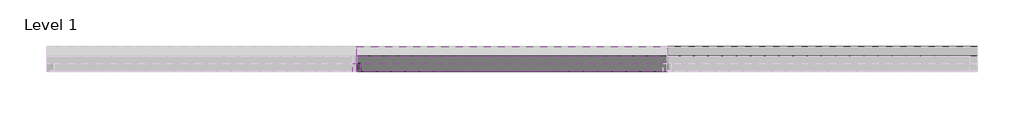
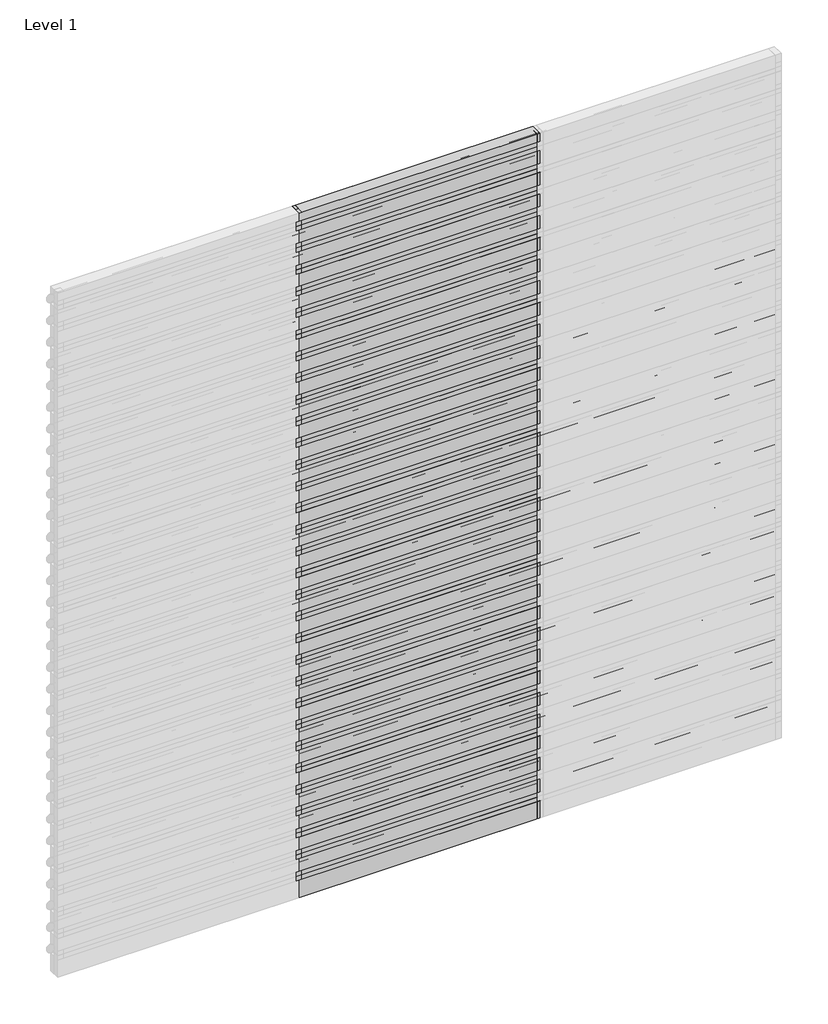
# One storey, part 2 of 3: 74 members, 64 plates.
"""IFC4 building model written with IfcOpenShell, lengths in millimetres."""

from ifc_helpers import new_model, si_unit, origin, place, context, project, spatial, transform, mapped, element, save
from components import rectangular_mullion_18d4e549, rectangular_mullion_3201b9fb, rectangular_mullion_5aa39df7, empty_system_panel_empty_c392bfdd, empty_system_panel_empty_c228c368, empty_system_panel_empty_0c4ce8c7, empty_system_panel_empty_fbe7752e, empty_system_panel_empty_6f6190f9

model = new_model("IFC4")

# Units and contexts
model_context = context("Model", 3, world=origin())
ifc_project = project(units=[si_unit("LENGTHUNIT", "METRE", prefix="MILLI")], contexts=[model_context])

# Site, building, storey
site = spatial("IfcSite", under=ifc_project)
building = spatial("IfcBuilding", under=site)
storey = spatial("IfcBuildingStorey", under=building, Name="Level 1", Elevation=0.0)

# Members
placement = place(None, origin())
rectangular_mullion_shape = rectangular_mullion_18d4e549(model_context)
element("IfcMember", 1, ObjectType="Rectangular Mullion : RSen_21_CWM_blade - 150 D_gen_duco projects", at=placement, inside=storey, context=model_context, shape_type="MappedRepresentation", body=[
    mapped(rectangular_mullion_shape, transform((4000.0, 3000.0, 190.0), x_axis=(0.0, 0.0, 1.0), y_axis=(0.0, 1.0, 0.0), z_axis=(-1.0, 0.0, 0.0))),
])
element("IfcMember", 2, ObjectType="Rectangular Mullion : RSen_21_CWM_blade - 150 D_gen_duco projects", at=placement, inside=storey, context=model_context, shape_type="MappedRepresentation", body=[
    mapped(rectangular_mullion_shape, transform((4000.0, 3000.0, 380.0), x_axis=(0.0, 0.0, 1.0), y_axis=(0.0, 1.0, 0.0), z_axis=(-1.0, 0.0, 0.0))),
])
element("IfcMember", 3, ObjectType="Rectangular Mullion : RSen_21_CWM_blade - 150 D_gen_duco projects", at=placement, inside=storey, context=model_context, shape_type="MappedRepresentation", body=[
    mapped(rectangular_mullion_shape, transform((4000.0, 3000.0, 570.0), x_axis=(0.0, 0.0, 1.0), y_axis=(0.0, 1.0, 0.0), z_axis=(-1.0, 0.0, 0.0))),
])
element("IfcMember", 4, ObjectType="Rectangular Mullion : RSen_21_CWM_blade - 150 D_gen_duco projects", at=placement, inside=storey, context=model_context, shape_type="MappedRepresentation", body=[
    mapped(rectangular_mullion_shape, transform((4000.0, 3000.0, 760.0), x_axis=(0.0, 0.0, 1.0), y_axis=(0.0, 1.0, 0.0), z_axis=(-1.0, 0.0, 0.0))),
])
element("IfcMember", 5, ObjectType="Rectangular Mullion : RSen_21_CWM_blade - 150 D_gen_duco projects", at=placement, inside=storey, context=model_context, shape_type="MappedRepresentation", body=[
    mapped(rectangular_mullion_shape, transform((4000.0, 3000.0, 950.0), x_axis=(0.0, 0.0, 1.0), y_axis=(0.0, 1.0, 0.0), z_axis=(-1.0, 0.0, 0.0))),
])
element("IfcMember", 6, ObjectType="Rectangular Mullion : RSen_21_CWM_blade - 150 D_gen_duco projects", at=placement, inside=storey, context=model_context, shape_type="MappedRepresentation", body=[
    mapped(rectangular_mullion_shape, transform((4000.0, 3000.0, 1140.0), x_axis=(0.0, 0.0, 1.0), y_axis=(0.0, 1.0, 0.0), z_axis=(-1.0, 0.0, 0.0))),
])
element("IfcMember", 7, ObjectType="Rectangular Mullion : RSen_21_CWM_blade - 150 D_gen_duco projects", at=placement, inside=storey, context=model_context, shape_type="MappedRepresentation", body=[
    mapped(rectangular_mullion_shape, transform((4000.0, 3000.0, 1330.0), x_axis=(0.0, 0.0, 1.0), y_axis=(0.0, 1.0, 0.0), z_axis=(-1.0, 0.0, 0.0))),
])
element("IfcMember", 8, ObjectType="Rectangular Mullion : RSen_21_CWM_blade - 150 D_gen_duco projects", at=placement, inside=storey, context=model_context, shape_type="MappedRepresentation", body=[
    mapped(rectangular_mullion_shape, transform((4000.0, 3000.0, 1520.0), x_axis=(0.0, 0.0, 1.0), y_axis=(0.0, 1.0, 0.0), z_axis=(-1.0, 0.0, 0.0))),
])
element("IfcMember", 9, ObjectType="Rectangular Mullion : RSen_21_CWM_blade - 150 D_gen_duco projects", at=placement, inside=storey, context=model_context, shape_type="MappedRepresentation", body=[
    mapped(rectangular_mullion_shape, transform((4000.0, 3000.0, 1710.0), x_axis=(0.0, 0.0, 1.0), y_axis=(0.0, 1.0, 0.0), z_axis=(-1.0, 0.0, 0.0))),
])
element("IfcMember", 10, ObjectType="Rectangular Mullion : RSen_21_CWM_blade - 150 D_gen_duco projects", at=placement, inside=storey, context=model_context, shape_type="MappedRepresentation", body=[
    mapped(rectangular_mullion_shape, transform((4000.0, 3000.0, 1900.0), x_axis=(0.0, 0.0, 1.0), y_axis=(0.0, 1.0, 0.0), z_axis=(-1.0, 0.0, 0.0))),
])
element("IfcMember", 11, ObjectType="Rectangular Mullion : RSen_21_CWM_blade - 150 D_gen_duco projects", at=placement, inside=storey, context=model_context, shape_type="MappedRepresentation", body=[
    mapped(rectangular_mullion_shape, transform((4000.0, 3000.0, 2090.0), x_axis=(0.0, 0.0, 1.0), y_axis=(0.0, 1.0, 0.0), z_axis=(-1.0, 0.0, 0.0))),
])
element("IfcMember", 12, ObjectType="Rectangular Mullion : RSen_21_CWM_blade - 150 D_gen_duco projects", at=placement, inside=storey, context=model_context, shape_type="MappedRepresentation", body=[
    mapped(rectangular_mullion_shape, transform((4000.0, 3000.0, 2280.0), x_axis=(0.0, 0.0, 1.0), y_axis=(0.0, 1.0, 0.0), z_axis=(-1.0, 0.0, 0.0))),
])
element("IfcMember", 13, ObjectType="Rectangular Mullion : RSen_21_CWM_blade - 150 D_gen_duco projects", at=placement, inside=storey, context=model_context, shape_type="MappedRepresentation", body=[
    mapped(rectangular_mullion_shape, transform((4000.0, 3000.0, 2470.0), x_axis=(0.0, 0.0, 1.0), y_axis=(0.0, 1.0, 0.0), z_axis=(-1.0, 0.0, 0.0))),
])
element("IfcMember", 14, ObjectType="Rectangular Mullion : RSen_21_CWM_blade - 150 D_gen_duco projects", at=placement, inside=storey, context=model_context, shape_type="MappedRepresentation", body=[
    mapped(rectangular_mullion_shape, transform((4000.0, 3000.0, 2660.0), x_axis=(0.0, 0.0, 1.0), y_axis=(0.0, 1.0, 0.0), z_axis=(-1.0, 0.0, 0.0))),
])
element("IfcMember", 15, ObjectType="Rectangular Mullion : RSen_21_CWM_blade - 150 D_gen_duco projects", at=placement, inside=storey, context=model_context, shape_type="MappedRepresentation", body=[
    mapped(rectangular_mullion_shape, transform((4000.0, 3000.0, 2850.0), x_axis=(0.0, 0.0, 1.0), y_axis=(0.0, 1.0, 0.0), z_axis=(-1.0, 0.0, 0.0))),
])
element("IfcMember", 16, ObjectType="Rectangular Mullion : RSen_21_CWM_blade - 150 D_gen_duco projects", at=placement, inside=storey, context=model_context, shape_type="MappedRepresentation", body=[
    mapped(rectangular_mullion_shape, transform((4000.0, 3000.0, 3040.0), x_axis=(0.0, 0.0, 1.0), y_axis=(0.0, 1.0, 0.0), z_axis=(-1.0, 0.0, 0.0))),
])
element("IfcMember", 17, ObjectType="Rectangular Mullion : RSen_21_CWM_blade - 150 D_gen_duco projects", at=placement, inside=storey, context=model_context, shape_type="MappedRepresentation", body=[
    mapped(rectangular_mullion_shape, transform((4000.0, 3000.0, 3230.0), x_axis=(0.0, 0.0, 1.0), y_axis=(0.0, 1.0, 0.0), z_axis=(-1.0, 0.0, 0.0))),
])
element("IfcMember", 18, ObjectType="Rectangular Mullion : RSen_21_CWM_blade - 150 D_gen_duco projects", at=placement, inside=storey, context=model_context, shape_type="MappedRepresentation", body=[
    mapped(rectangular_mullion_shape, transform((4000.0, 3000.0, 3420.0), x_axis=(0.0, 0.0, 1.0), y_axis=(0.0, 1.0, 0.0), z_axis=(-1.0, 0.0, 0.0))),
])
element("IfcMember", 19, ObjectType="Rectangular Mullion : RSen_21_CWM_blade - 150 D_gen_duco projects", at=placement, inside=storey, context=model_context, shape_type="MappedRepresentation", body=[
    mapped(rectangular_mullion_shape, transform((4000.0, 3000.0, 3610.0), x_axis=(0.0, 0.0, 1.0), y_axis=(0.0, 1.0, 0.0), z_axis=(-1.0, 0.0, 0.0))),
])
element("IfcMember", 20, ObjectType="Rectangular Mullion : RSen_21_CWM_blade - 150 D_gen_duco projects", at=placement, inside=storey, context=model_context, shape_type="MappedRepresentation", body=[
    mapped(rectangular_mullion_shape, transform((4000.0, 3000.0, 3800.0), x_axis=(0.0, 0.0, 1.0), y_axis=(0.0, 1.0, 0.0), z_axis=(-1.0, 0.0, 0.0))),
])
element("IfcMember", 21, ObjectType="Rectangular Mullion : RSen_21_CWM_blade - 150 D_gen_duco projects", at=placement, inside=storey, context=model_context, shape_type="MappedRepresentation", body=[
    mapped(rectangular_mullion_shape, transform((4000.0, 3000.0, 3990.0), x_axis=(0.0, 0.0, 1.0), y_axis=(0.0, 1.0, 0.0), z_axis=(-1.0, 0.0, 0.0))),
])
element("IfcMember", 22, ObjectType="Rectangular Mullion : RSen_21_CWM_blade - 150 D_gen_duco projects", at=placement, inside=storey, context=model_context, shape_type="MappedRepresentation", body=[
    mapped(rectangular_mullion_shape, transform((4000.0, 3000.0, 4180.0), x_axis=(0.0, 0.0, 1.0), y_axis=(0.0, 1.0, 0.0), z_axis=(-1.0, 0.0, 0.0))),
])
element("IfcMember", 23, ObjectType="Rectangular Mullion : RSen_21_CWM_blade - 150 D_gen_duco projects", at=placement, inside=storey, context=model_context, shape_type="MappedRepresentation", body=[
    mapped(rectangular_mullion_shape, transform((2000.0, 3000.0, 2280.0), x_axis=(0.0, 0.0, 1.0), y_axis=(0.0, 1.0, 0.0), z_axis=(-1.0, 0.0, 0.0))),
])
element("IfcMember", 24, ObjectType="Rectangular Mullion : RSen_21_CWM_blade - 150 D_gen_duco projects", at=placement, inside=storey, context=model_context, shape_type="MappedRepresentation", body=[
    mapped(rectangular_mullion_shape, transform((2000.0, 3000.0, 2470.0), x_axis=(0.0, 0.0, 1.0), y_axis=(0.0, 1.0, 0.0), z_axis=(-1.0, 0.0, 0.0))),
])
element("IfcMember", 25, ObjectType="Rectangular Mullion : RSen_21_CWM_blade - 150 D_gen_duco projects", at=placement, inside=storey, context=model_context, shape_type="MappedRepresentation", body=[
    mapped(rectangular_mullion_shape, transform((2000.0, 3000.0, 2660.0), x_axis=(0.0, 0.0, 1.0), y_axis=(0.0, 1.0, 0.0), z_axis=(-1.0, 0.0, 0.0))),
])
element("IfcMember", 26, ObjectType="Rectangular Mullion : RSen_21_CWM_blade - 150 D_gen_duco projects", at=placement, inside=storey, context=model_context, shape_type="MappedRepresentation", body=[
    mapped(rectangular_mullion_shape, transform((2000.0, 3000.0, 2850.0), x_axis=(0.0, 0.0, 1.0), y_axis=(0.0, 1.0, 0.0), z_axis=(-1.0, 0.0, 0.0))),
])
element("IfcMember", 27, ObjectType="Rectangular Mullion : RSen_21_CWM_blade - 150 D_gen_duco projects", at=placement, inside=storey, context=model_context, shape_type="MappedRepresentation", body=[
    mapped(rectangular_mullion_shape, transform((2000.0, 3000.0, 3040.0), x_axis=(0.0, 0.0, 1.0), y_axis=(0.0, 1.0, 0.0), z_axis=(-1.0, 0.0, 0.0))),
])
element("IfcMember", 28, ObjectType="Rectangular Mullion : RSen_21_CWM_blade - 150 D_gen_duco projects", at=placement, inside=storey, context=model_context, shape_type="MappedRepresentation", body=[
    mapped(rectangular_mullion_shape, transform((2000.0, 3000.0, 3230.0), x_axis=(0.0, 0.0, 1.0), y_axis=(0.0, 1.0, 0.0), z_axis=(-1.0, 0.0, 0.0))),
])
element("IfcMember", 29, ObjectType="Rectangular Mullion : RSen_21_CWM_blade - 150 D_gen_duco projects", at=placement, inside=storey, context=model_context, shape_type="MappedRepresentation", body=[
    mapped(rectangular_mullion_shape, transform((2000.0, 3000.0, 3420.0), x_axis=(0.0, 0.0, 1.0), y_axis=(0.0, 1.0, 0.0), z_axis=(-1.0, 0.0, 0.0))),
])
element("IfcMember", 30, ObjectType="Rectangular Mullion : RSen_21_CWM_blade - 150 D_gen_duco projects", at=placement, inside=storey, context=model_context, shape_type="MappedRepresentation", body=[
    mapped(rectangular_mullion_shape, transform((2000.0, 3000.0, 3610.0), x_axis=(0.0, 0.0, 1.0), y_axis=(0.0, 1.0, 0.0), z_axis=(-1.0, 0.0, 0.0))),
])
element("IfcMember", 31, ObjectType="Rectangular Mullion : RSen_21_CWM_blade - 150 D_gen_duco projects", at=placement, inside=storey, context=model_context, shape_type="MappedRepresentation", body=[
    mapped(rectangular_mullion_shape, transform((2000.0, 3000.0, 3800.0), x_axis=(0.0, 0.0, 1.0), y_axis=(0.0, 1.0, 0.0), z_axis=(-1.0, 0.0, 0.0))),
])
element("IfcMember", 32, ObjectType="Rectangular Mullion : RSen_21_CWM_blade - 150 D_gen_duco projects", at=placement, inside=storey, context=model_context, shape_type="MappedRepresentation", body=[
    mapped(rectangular_mullion_shape, transform((2000.0, 3000.0, 3990.0), x_axis=(0.0, 0.0, 1.0), y_axis=(0.0, 1.0, 0.0), z_axis=(-1.0, 0.0, 0.0))),
])
element("IfcMember", 33, ObjectType="Rectangular Mullion : RSen_21_CWM_blade - 150 D_gen_duco projects", at=placement, inside=storey, context=model_context, shape_type="MappedRepresentation", body=[
    mapped(rectangular_mullion_shape, transform((2000.0, 3000.0, 4180.0), x_axis=(0.0, 0.0, 1.0), y_axis=(0.0, 1.0, 0.0), z_axis=(-1.0, 0.0, 0.0))),
])
element("IfcMember", 34, ObjectType="Rectangular Mullion : RSen_21_CWM_blade - 150 D_gen_duco projects", at=placement, inside=storey, context=model_context, shape_type="MappedRepresentation", body=[
    mapped(rectangular_mullion_shape, transform((2000.0, 3000.0, 4370.0), x_axis=(0.0, 0.0, 1.0), y_axis=(0.0, 1.0, 0.0), z_axis=(-1.0, 0.0, 0.0))),
])
element("IfcMember", 35, ObjectType="Rectangular Mullion : RSen_21_CWM_blade - 150 D_gen_duco projects", at=placement, inside=storey, context=model_context, shape_type="MappedRepresentation", body=[
    mapped(rectangular_mullion_shape, transform((2000.0, 3000.0, 4560.0), x_axis=(0.0, 0.0, 1.0), y_axis=(0.0, 1.0, 0.0), z_axis=(-1.0, 0.0, 0.0))),
])
element("IfcMember", 36, ObjectType="Rectangular Mullion : RSen_21_CWM_blade - 150 D_gen_duco projects", at=placement, inside=storey, context=model_context, shape_type="MappedRepresentation", body=[
    mapped(rectangular_mullion_shape, transform((2000.0, 3000.0, 4750.0), x_axis=(0.0, 0.0, 1.0), y_axis=(0.0, 1.0, 0.0), z_axis=(-1.0, 0.0, 0.0))),
])
element("IfcMember", 37, ObjectType="Rectangular Mullion : RSen_21_CWM_blade - 150 D_gen_duco projects", at=placement, inside=storey, context=model_context, shape_type="MappedRepresentation", body=[
    mapped(rectangular_mullion_shape, transform((2000.0, 3000.0, 4940.0), x_axis=(0.0, 0.0, 1.0), y_axis=(0.0, 1.0, 0.0), z_axis=(-1.0, 0.0, 0.0))),
])
element("IfcMember", 38, ObjectType="Rectangular Mullion : RSen_21_CWM_blade - 150 D_gen_duco projects", at=placement, inside=storey, context=model_context, shape_type="MappedRepresentation", body=[
    mapped(rectangular_mullion_shape, transform((2000.0, 3000.0, 5130.0), x_axis=(0.0, 0.0, 1.0), y_axis=(0.0, 1.0, 0.0), z_axis=(-1.0, 0.0, 0.0))),
])
element("IfcMember", 39, ObjectType="Rectangular Mullion : RSen_21_CWM_blade - 150 D_gen_duco projects", at=placement, inside=storey, context=model_context, shape_type="MappedRepresentation", body=[
    mapped(rectangular_mullion_shape, transform((2000.0, 3000.0, 5320.0), x_axis=(0.0, 0.0, 1.0), y_axis=(0.0, 1.0, 0.0), z_axis=(-1.0, 0.0, 0.0))),
])
element("IfcMember", 40, ObjectType="Rectangular Mullion : RSen_21_CWM_blade - 150 D_gen_duco projects", at=placement, inside=storey, context=model_context, shape_type="MappedRepresentation", body=[
    mapped(rectangular_mullion_shape, transform((2000.0, 3000.0, 5510.0), x_axis=(0.0, 0.0, 1.0), y_axis=(0.0, 1.0, 0.0), z_axis=(-1.0, 0.0, 0.0))),
])
element("IfcMember", 41, ObjectType="Rectangular Mullion : RSen_21_CWM_blade - 150 D_gen_duco projects", at=placement, inside=storey, context=model_context, shape_type="MappedRepresentation", body=[
    mapped(rectangular_mullion_shape, transform((2000.0, 3000.0, 5700.0), x_axis=(0.0, 0.0, 1.0), y_axis=(0.0, 1.0, 0.0), z_axis=(-1.0, 0.0, 0.0))),
])
element("IfcMember", 42, ObjectType="Rectangular Mullion : RSen_21_CWM_blade - 150 D_gen_duco projects", at=placement, inside=storey, context=model_context, shape_type="MappedRepresentation", body=[
    mapped(rectangular_mullion_shape, transform((2000.0, 3000.0, 5890.0), x_axis=(0.0, 0.0, 1.0), y_axis=(0.0, 1.0, 0.0), z_axis=(-1.0, 0.0, 0.0))),
])
rectangular_mullion_2_shape = rectangular_mullion_3201b9fb(model_context)
element("IfcMember", 43, ObjectType="Rectangular Mullion : RSen_21_CWM_support profile 50x50_gen_duco projects", at=placement, inside=storey, context=model_context, shape_type="MappedRepresentation", body=[
    mapped(rectangular_mullion_2_shape, transform((2000.0, 3000.0, 0.0), x_axis=(-1.0, 0.0, 0.0), y_axis=(0.0, 1.0, 0.0), z_axis=(0.0, 0.0, -1.0))),
])
element("IfcMember", 44, ObjectType="Rectangular Mullion : RSen_21_CWM_support profile 50x50_gen_duco projects", at=placement, inside=storey, context=model_context, shape_type="MappedRepresentation", body=[
    mapped(rectangular_mullion_2_shape, transform((2000.0, 3000.0, 190.0), x_axis=(-1.0, 0.0, 0.0), y_axis=(0.0, 1.0, 0.0), z_axis=(0.0, 0.0, -1.0))),
])
element("IfcMember", 45, ObjectType="Rectangular Mullion : RSen_21_CWM_support profile 50x50_gen_duco projects", at=placement, inside=storey, context=model_context, shape_type="MappedRepresentation", body=[
    mapped(rectangular_mullion_2_shape, transform((2000.0, 3000.0, 380.0), x_axis=(-1.0, 0.0, 0.0), y_axis=(0.0, 1.0, 0.0), z_axis=(0.0, 0.0, -1.0))),
])
element("IfcMember", 46, ObjectType="Rectangular Mullion : RSen_21_CWM_support profile 50x50_gen_duco projects", at=placement, inside=storey, context=model_context, shape_type="MappedRepresentation", body=[
    mapped(rectangular_mullion_2_shape, transform((2000.0, 3000.0, 570.0), x_axis=(-1.0, 0.0, 0.0), y_axis=(0.0, 1.0, 0.0), z_axis=(0.0, 0.0, -1.0))),
])
element("IfcMember", 47, ObjectType="Rectangular Mullion : RSen_21_CWM_support profile 50x50_gen_duco projects", at=placement, inside=storey, context=model_context, shape_type="MappedRepresentation", body=[
    mapped(rectangular_mullion_2_shape, transform((2000.0, 3000.0, 760.0), x_axis=(-1.0, 0.0, 0.0), y_axis=(0.0, 1.0, 0.0), z_axis=(0.0, 0.0, -1.0))),
])
element("IfcMember", 48, ObjectType="Rectangular Mullion : RSen_21_CWM_support profile 50x50_gen_duco projects", at=placement, inside=storey, context=model_context, shape_type="MappedRepresentation", body=[
    mapped(rectangular_mullion_2_shape, transform((2000.0, 3000.0, 950.0), x_axis=(-1.0, 0.0, 0.0), y_axis=(0.0, 1.0, 0.0), z_axis=(0.0, 0.0, -1.0))),
])
element("IfcMember", 49, ObjectType="Rectangular Mullion : RSen_21_CWM_support profile 50x50_gen_duco projects", at=placement, inside=storey, context=model_context, shape_type="MappedRepresentation", body=[
    mapped(rectangular_mullion_2_shape, transform((2000.0, 3000.0, 1140.0), x_axis=(-1.0, 0.0, 0.0), y_axis=(0.0, 1.0, 0.0), z_axis=(0.0, 0.0, -1.0))),
])
element("IfcMember", 50, ObjectType="Rectangular Mullion : RSen_21_CWM_support profile 50x50_gen_duco projects", at=placement, inside=storey, context=model_context, shape_type="MappedRepresentation", body=[
    mapped(rectangular_mullion_2_shape, transform((2000.0, 3000.0, 1330.0), x_axis=(-1.0, 0.0, 0.0), y_axis=(0.0, 1.0, 0.0), z_axis=(0.0, 0.0, -1.0))),
])
element("IfcMember", 51, ObjectType="Rectangular Mullion : RSen_21_CWM_support profile 50x50_gen_duco projects", at=placement, inside=storey, context=model_context, shape_type="MappedRepresentation", body=[
    mapped(rectangular_mullion_2_shape, transform((2000.0, 3000.0, 1520.0), x_axis=(-1.0, 0.0, 0.0), y_axis=(0.0, 1.0, 0.0), z_axis=(0.0, 0.0, -1.0))),
])
element("IfcMember", 52, ObjectType="Rectangular Mullion : RSen_21_CWM_support profile 50x50_gen_duco projects", at=placement, inside=storey, context=model_context, shape_type="MappedRepresentation", body=[
    mapped(rectangular_mullion_2_shape, transform((2000.0, 3000.0, 1710.0), x_axis=(-1.0, 0.0, 0.0), y_axis=(0.0, 1.0, 0.0), z_axis=(0.0, 0.0, -1.0))),
])
element("IfcMember", 53, ObjectType="Rectangular Mullion : RSen_21_CWM_support profile 50x50_gen_duco projects", at=placement, inside=storey, context=model_context, shape_type="MappedRepresentation", body=[
    mapped(rectangular_mullion_2_shape, transform((2000.0, 3000.0, 1900.0), x_axis=(-1.0, 0.0, 0.0), y_axis=(0.0, 1.0, 0.0), z_axis=(0.0, 0.0, -1.0))),
])
element("IfcMember", 54, ObjectType="Rectangular Mullion : RSen_21_CWM_support profile 50x50_gen_duco projects", at=placement, inside=storey, context=model_context, shape_type="MappedRepresentation", body=[
    mapped(rectangular_mullion_2_shape, transform((2000.0, 3000.0, 2090.0), x_axis=(-1.0, 0.0, 0.0), y_axis=(0.0, 1.0, 0.0), z_axis=(0.0, 0.0, -1.0))),
])
element("IfcMember", 55, ObjectType="Rectangular Mullion : RSen_21_CWM_support profile 50x50_gen_duco projects", at=placement, inside=storey, context=model_context, shape_type="MappedRepresentation", body=[
    mapped(rectangular_mullion_2_shape, transform((2000.0, 3000.0, 2280.0), x_axis=(-1.0, 0.0, 0.0), y_axis=(0.0, 1.0, 0.0), z_axis=(0.0, 0.0, -1.0))),
])
element("IfcMember", 56, ObjectType="Rectangular Mullion : RSen_21_CWM_support profile 50x50_gen_duco projects", at=placement, inside=storey, context=model_context, shape_type="MappedRepresentation", body=[
    mapped(rectangular_mullion_2_shape, transform((2000.0, 3000.0, 2470.0), x_axis=(-1.0, 0.0, 0.0), y_axis=(0.0, 1.0, 0.0), z_axis=(0.0, 0.0, -1.0))),
])
element("IfcMember", 57, ObjectType="Rectangular Mullion : RSen_21_CWM_support profile 50x50_gen_duco projects", at=placement, inside=storey, context=model_context, shape_type="MappedRepresentation", body=[
    mapped(rectangular_mullion_2_shape, transform((2000.0, 3000.0, 2660.0), x_axis=(-1.0, 0.0, 0.0), y_axis=(0.0, 1.0, 0.0), z_axis=(0.0, 0.0, -1.0))),
])
element("IfcMember", 58, ObjectType="Rectangular Mullion : RSen_21_CWM_support profile 50x50_gen_duco projects", at=placement, inside=storey, context=model_context, shape_type="MappedRepresentation", body=[
    mapped(rectangular_mullion_2_shape, transform((2000.0, 3000.0, 2850.0), x_axis=(-1.0, 0.0, 0.0), y_axis=(0.0, 1.0, 0.0), z_axis=(0.0, 0.0, -1.0))),
])
element("IfcMember", 59, ObjectType="Rectangular Mullion : RSen_21_CWM_support profile 50x50_gen_duco projects", at=placement, inside=storey, context=model_context, shape_type="MappedRepresentation", body=[
    mapped(rectangular_mullion_2_shape, transform((2000.0, 3000.0, 3040.0), x_axis=(-1.0, 0.0, 0.0), y_axis=(0.0, 1.0, 0.0), z_axis=(0.0, 0.0, -1.0))),
])
element("IfcMember", 60, ObjectType="Rectangular Mullion : RSen_21_CWM_support profile 50x50_gen_duco projects", at=placement, inside=storey, context=model_context, shape_type="MappedRepresentation", body=[
    mapped(rectangular_mullion_2_shape, transform((2000.0, 3000.0, 3230.0), x_axis=(-1.0, 0.0, 0.0), y_axis=(0.0, 1.0, 0.0), z_axis=(0.0, 0.0, -1.0))),
])
element("IfcMember", 61, ObjectType="Rectangular Mullion : RSen_21_CWM_support profile 50x50_gen_duco projects", at=placement, inside=storey, context=model_context, shape_type="MappedRepresentation", body=[
    mapped(rectangular_mullion_2_shape, transform((2000.0, 3000.0, 3420.0), x_axis=(-1.0, 0.0, 0.0), y_axis=(0.0, 1.0, 0.0), z_axis=(0.0, 0.0, -1.0))),
])
element("IfcMember", 62, ObjectType="Rectangular Mullion : RSen_21_CWM_support profile 50x50_gen_duco projects", at=placement, inside=storey, context=model_context, shape_type="MappedRepresentation", body=[
    mapped(rectangular_mullion_2_shape, transform((2000.0, 3000.0, 3610.0), x_axis=(-1.0, 0.0, 0.0), y_axis=(0.0, 1.0, 0.0), z_axis=(0.0, 0.0, -1.0))),
])
element("IfcMember", 63, ObjectType="Rectangular Mullion : RSen_21_CWM_support profile 50x50_gen_duco projects", at=placement, inside=storey, context=model_context, shape_type="MappedRepresentation", body=[
    mapped(rectangular_mullion_2_shape, transform((2000.0, 3000.0, 3800.0), x_axis=(-1.0, 0.0, 0.0), y_axis=(0.0, 1.0, 0.0), z_axis=(0.0, 0.0, -1.0))),
])
element("IfcMember", 64, ObjectType="Rectangular Mullion : RSen_21_CWM_support profile 50x50_gen_duco projects", at=placement, inside=storey, context=model_context, shape_type="MappedRepresentation", body=[
    mapped(rectangular_mullion_2_shape, transform((2000.0, 3000.0, 3990.0), x_axis=(-1.0, 0.0, 0.0), y_axis=(0.0, 1.0, 0.0), z_axis=(0.0, 0.0, -1.0))),
])
element("IfcMember", 65, ObjectType="Rectangular Mullion : RSen_21_CWM_support profile 50x50_gen_duco projects", at=placement, inside=storey, context=model_context, shape_type="MappedRepresentation", body=[
    mapped(rectangular_mullion_2_shape, transform((2000.0, 3000.0, 4180.0), x_axis=(-1.0, 0.0, 0.0), y_axis=(0.0, 1.0, 0.0), z_axis=(0.0, 0.0, -1.0))),
])
element("IfcMember", 66, ObjectType="Rectangular Mullion : RSen_21_CWM_support profile 50x50_gen_duco projects", at=placement, inside=storey, context=model_context, shape_type="MappedRepresentation", body=[
    mapped(rectangular_mullion_2_shape, transform((2000.0, 3000.0, 4370.0), x_axis=(-1.0, 0.0, 0.0), y_axis=(0.0, 1.0, 0.0), z_axis=(0.0, 0.0, -1.0))),
])
element("IfcMember", 67, ObjectType="Rectangular Mullion : RSen_21_CWM_support profile 50x50_gen_duco projects", at=placement, inside=storey, context=model_context, shape_type="MappedRepresentation", body=[
    mapped(rectangular_mullion_2_shape, transform((2000.0, 3000.0, 4560.0), x_axis=(-1.0, 0.0, 0.0), y_axis=(0.0, 1.0, 0.0), z_axis=(0.0, 0.0, -1.0))),
])
element("IfcMember", 68, ObjectType="Rectangular Mullion : RSen_21_CWM_support profile 50x50_gen_duco projects", at=placement, inside=storey, context=model_context, shape_type="MappedRepresentation", body=[
    mapped(rectangular_mullion_2_shape, transform((2000.0, 3000.0, 4750.0), x_axis=(-1.0, 0.0, 0.0), y_axis=(0.0, 1.0, 0.0), z_axis=(0.0, 0.0, -1.0))),
])
element("IfcMember", 69, ObjectType="Rectangular Mullion : RSen_21_CWM_support profile 50x50_gen_duco projects", at=placement, inside=storey, context=model_context, shape_type="MappedRepresentation", body=[
    mapped(rectangular_mullion_2_shape, transform((2000.0, 3000.0, 4940.0), x_axis=(-1.0, 0.0, 0.0), y_axis=(0.0, 1.0, 0.0), z_axis=(0.0, 0.0, -1.0))),
])
element("IfcMember", 70, ObjectType="Rectangular Mullion : RSen_21_CWM_support profile 50x50_gen_duco projects", at=placement, inside=storey, context=model_context, shape_type="MappedRepresentation", body=[
    mapped(rectangular_mullion_2_shape, transform((2000.0, 3000.0, 5130.0), x_axis=(-1.0, 0.0, 0.0), y_axis=(0.0, 1.0, 0.0), z_axis=(0.0, 0.0, -1.0))),
])
element("IfcMember", 71, ObjectType="Rectangular Mullion : RSen_21_CWM_support profile 50x50_gen_duco projects", at=placement, inside=storey, context=model_context, shape_type="MappedRepresentation", body=[
    mapped(rectangular_mullion_2_shape, transform((2000.0, 3000.0, 5320.0), x_axis=(-1.0, 0.0, 0.0), y_axis=(0.0, 1.0, 0.0), z_axis=(0.0, 0.0, -1.0))),
])
element("IfcMember", 72, ObjectType="Rectangular Mullion : RSen_21_CWM_support profile 50x50_gen_duco projects", at=placement, inside=storey, context=model_context, shape_type="MappedRepresentation", body=[
    mapped(rectangular_mullion_2_shape, transform((2000.0, 3000.0, 5510.0), x_axis=(-1.0, 0.0, 0.0), y_axis=(0.0, 1.0, 0.0), z_axis=(0.0, 0.0, -1.0))),
])
element("IfcMember", 73, ObjectType="Rectangular Mullion : RSen_21_CWM_support profile 50x50_gen_duco projects", at=placement, inside=storey, context=model_context, shape_type="MappedRepresentation", body=[
    mapped(rectangular_mullion_2_shape, transform((2000.0, 3000.0, 5700.0), x_axis=(-1.0, 0.0, 0.0), y_axis=(0.0, 1.0, 0.0), z_axis=(0.0, 0.0, -1.0))),
])
rectangular_mullion_3_shape = rectangular_mullion_5aa39df7(model_context)
element("IfcMember", 74, ObjectType="Rectangular Mullion : RSen_21_CWM_support profile 50x50_gen_duco projects", at=placement, inside=storey, context=model_context, shape_type="MappedRepresentation", body=[
    mapped(rectangular_mullion_3_shape, transform((2000.0, 3000.0, 5890.0), x_axis=(-1.0, 0.0, 0.0), y_axis=(0.0, 1.0, 0.0), z_axis=(0.0, 0.0, -1.0))),
])

# Plates
empty_system_panel_empty_shape = empty_system_panel_empty_c392bfdd(model_context)
element("IfcPlate", 75, ObjectType="Empty System Panel : Empty", at=placement, inside=storey, context=model_context, shape_type="MappedRepresentation", body=[
    mapped(empty_system_panel_empty_shape, transform((3000.0, 3000.0, 0.0), x_axis=(-1.0, 0.0, 0.0), y_axis=(0.0, -1.0, 0.0), z_axis=(0.0, 0.0, 1.0))),
])
empty_system_panel_empty_2_shape = empty_system_panel_empty_c228c368(model_context)
element("IfcPlate", 76, ObjectType="Empty System Panel : Empty", at=placement, inside=storey, context=model_context, shape_type="MappedRepresentation", body=[
    mapped(empty_system_panel_empty_2_shape, transform((3000.0, 3000.0, 229.5979797), x_axis=(-1.0, 0.0, 0.0), y_axis=(0.0, -1.0, 0.0), z_axis=(0.0, 0.0, 1.0))),
])
element("IfcPlate", 77, ObjectType="Empty System Panel : Empty", at=placement, inside=storey, context=model_context, shape_type="MappedRepresentation", body=[
    mapped(empty_system_panel_empty_2_shape, transform((3000.0, 3000.0, 419.5979797), x_axis=(-1.0, 0.0, 0.0), y_axis=(0.0, -1.0, 0.0), z_axis=(0.0, 0.0, 1.0))),
])
element("IfcPlate", 78, ObjectType="Empty System Panel : Empty", at=placement, inside=storey, context=model_context, shape_type="MappedRepresentation", body=[
    mapped(empty_system_panel_empty_2_shape, transform((3000.0, 3000.0, 609.5979797), x_axis=(-1.0, 0.0, 0.0), y_axis=(0.0, -1.0, 0.0), z_axis=(0.0, 0.0, 1.0))),
])
element("IfcPlate", 79, ObjectType="Empty System Panel : Empty", at=placement, inside=storey, context=model_context, shape_type="MappedRepresentation", body=[
    mapped(empty_system_panel_empty_2_shape, transform((3000.0, 3000.0, 799.5979797), x_axis=(-1.0, 0.0, 0.0), y_axis=(0.0, -1.0, 0.0), z_axis=(0.0, 0.0, 1.0))),
])
element("IfcPlate", 80, ObjectType="Empty System Panel : Empty", at=placement, inside=storey, context=model_context, shape_type="MappedRepresentation", body=[
    mapped(empty_system_panel_empty_2_shape, transform((3000.0, 3000.0, 989.5979797), x_axis=(-1.0, 0.0, 0.0), y_axis=(0.0, -1.0, 0.0), z_axis=(0.0, 0.0, 1.0))),
])
element("IfcPlate", 81, ObjectType="Empty System Panel : Empty", at=placement, inside=storey, context=model_context, shape_type="MappedRepresentation", body=[
    mapped(empty_system_panel_empty_2_shape, transform((3000.0, 3000.0, 1179.5979797), x_axis=(-1.0, 0.0, 0.0), y_axis=(0.0, -1.0, 0.0), z_axis=(0.0, 0.0, 1.0))),
])
element("IfcPlate", 82, ObjectType="Empty System Panel : Empty", at=placement, inside=storey, context=model_context, shape_type="MappedRepresentation", body=[
    mapped(empty_system_panel_empty_2_shape, transform((3000.0, 3000.0, 1369.5979797), x_axis=(-1.0, 0.0, 0.0), y_axis=(0.0, -1.0, 0.0), z_axis=(0.0, 0.0, 1.0))),
])
element("IfcPlate", 83, ObjectType="Empty System Panel : Empty", at=placement, inside=storey, context=model_context, shape_type="MappedRepresentation", body=[
    mapped(empty_system_panel_empty_2_shape, transform((3000.0, 3000.0, 1559.5979797), x_axis=(-1.0, 0.0, 0.0), y_axis=(0.0, -1.0, 0.0), z_axis=(0.0, 0.0, 1.0))),
])
element("IfcPlate", 84, ObjectType="Empty System Panel : Empty", at=placement, inside=storey, context=model_context, shape_type="MappedRepresentation", body=[
    mapped(empty_system_panel_empty_2_shape, transform((3000.0, 3000.0, 1749.5979797), x_axis=(-1.0, 0.0, 0.0), y_axis=(0.0, -1.0, 0.0), z_axis=(0.0, 0.0, 1.0))),
])
element("IfcPlate", 85, ObjectType="Empty System Panel : Empty", at=placement, inside=storey, context=model_context, shape_type="MappedRepresentation", body=[
    mapped(empty_system_panel_empty_2_shape, transform((3000.0, 3000.0, 1939.5979797), x_axis=(-1.0, 0.0, 0.0), y_axis=(0.0, -1.0, 0.0), z_axis=(0.0, 0.0, 1.0))),
])
element("IfcPlate", 86, ObjectType="Empty System Panel : Empty", at=placement, inside=storey, context=model_context, shape_type="MappedRepresentation", body=[
    mapped(empty_system_panel_empty_2_shape, transform((3000.0, 3000.0, 2129.5979797), x_axis=(-1.0, 0.0, 0.0), y_axis=(0.0, -1.0, 0.0), z_axis=(0.0, 0.0, 1.0))),
])
element("IfcPlate", 87, ObjectType="Empty System Panel : Empty", at=placement, inside=storey, context=model_context, shape_type="MappedRepresentation", body=[
    mapped(empty_system_panel_empty_2_shape, transform((3000.0, 3000.0, 2319.5979797), x_axis=(-1.0, 0.0, 0.0), y_axis=(0.0, -1.0, 0.0), z_axis=(0.0, 0.0, 1.0))),
])
element("IfcPlate", 88, ObjectType="Empty System Panel : Empty", at=placement, inside=storey, context=model_context, shape_type="MappedRepresentation", body=[
    mapped(empty_system_panel_empty_2_shape, transform((3000.0, 3000.0, 2509.5979797), x_axis=(-1.0, 0.0, 0.0), y_axis=(0.0, -1.0, 0.0), z_axis=(0.0, 0.0, 1.0))),
])
element("IfcPlate", 89, ObjectType="Empty System Panel : Empty", at=placement, inside=storey, context=model_context, shape_type="MappedRepresentation", body=[
    mapped(empty_system_panel_empty_2_shape, transform((3000.0, 3000.0, 2699.5979797), x_axis=(-1.0, 0.0, 0.0), y_axis=(0.0, -1.0, 0.0), z_axis=(0.0, 0.0, 1.0))),
])
element("IfcPlate", 90, ObjectType="Empty System Panel : Empty", at=placement, inside=storey, context=model_context, shape_type="MappedRepresentation", body=[
    mapped(empty_system_panel_empty_2_shape, transform((3000.0, 3000.0, 2889.5979797), x_axis=(-1.0, 0.0, 0.0), y_axis=(0.0, -1.0, 0.0), z_axis=(0.0, 0.0, 1.0))),
])
element("IfcPlate", 91, ObjectType="Empty System Panel : Empty", at=placement, inside=storey, context=model_context, shape_type="MappedRepresentation", body=[
    mapped(empty_system_panel_empty_2_shape, transform((3000.0, 3000.0, 3079.5979797), x_axis=(-1.0, 0.0, 0.0), y_axis=(0.0, -1.0, 0.0), z_axis=(0.0, 0.0, 1.0))),
])
element("IfcPlate", 92, ObjectType="Empty System Panel : Empty", at=placement, inside=storey, context=model_context, shape_type="MappedRepresentation", body=[
    mapped(empty_system_panel_empty_2_shape, transform((3000.0, 3000.0, 3269.5979797), x_axis=(-1.0, 0.0, 0.0), y_axis=(0.0, -1.0, 0.0), z_axis=(0.0, 0.0, 1.0))),
])
element("IfcPlate", 93, ObjectType="Empty System Panel : Empty", at=placement, inside=storey, context=model_context, shape_type="MappedRepresentation", body=[
    mapped(empty_system_panel_empty_2_shape, transform((3000.0, 3000.0, 3459.5979797), x_axis=(-1.0, 0.0, 0.0), y_axis=(0.0, -1.0, 0.0), z_axis=(0.0, 0.0, 1.0))),
])
element("IfcPlate", 94, ObjectType="Empty System Panel : Empty", at=placement, inside=storey, context=model_context, shape_type="MappedRepresentation", body=[
    mapped(empty_system_panel_empty_2_shape, transform((3000.0, 3000.0, 3649.5979797), x_axis=(-1.0, 0.0, 0.0), y_axis=(0.0, -1.0, 0.0), z_axis=(0.0, 0.0, 1.0))),
])
element("IfcPlate", 95, ObjectType="Empty System Panel : Empty", at=placement, inside=storey, context=model_context, shape_type="MappedRepresentation", body=[
    mapped(empty_system_panel_empty_2_shape, transform((3000.0, 3000.0, 3839.5979797), x_axis=(-1.0, 0.0, 0.0), y_axis=(0.0, -1.0, 0.0), z_axis=(0.0, 0.0, 1.0))),
])
element("IfcPlate", 96, ObjectType="Empty System Panel : Empty", at=placement, inside=storey, context=model_context, shape_type="MappedRepresentation", body=[
    mapped(empty_system_panel_empty_2_shape, transform((3000.0, 3000.0, 4029.5979797), x_axis=(-1.0, 0.0, 0.0), y_axis=(0.0, -1.0, 0.0), z_axis=(0.0, 0.0, 1.0))),
])
element("IfcPlate", 97, ObjectType="Empty System Panel : Empty", at=placement, inside=storey, context=model_context, shape_type="MappedRepresentation", body=[
    mapped(empty_system_panel_empty_2_shape, transform((3000.0, 3000.0, 4219.5979797), x_axis=(-1.0, 0.0, 0.0), y_axis=(0.0, -1.0, 0.0), z_axis=(0.0, 0.0, 1.0))),
])
element("IfcPlate", 98, ObjectType="Empty System Panel : Empty", at=placement, inside=storey, context=model_context, shape_type="MappedRepresentation", body=[
    mapped(empty_system_panel_empty_2_shape, transform((3000.0, 3000.0, 4409.5979797), x_axis=(-1.0, 0.0, 0.0), y_axis=(0.0, -1.0, 0.0), z_axis=(0.0, 0.0, 1.0))),
])
element("IfcPlate", 99, ObjectType="Empty System Panel : Empty", at=placement, inside=storey, context=model_context, shape_type="MappedRepresentation", body=[
    mapped(empty_system_panel_empty_2_shape, transform((3000.0, 3000.0, 4599.5979797), x_axis=(-1.0, 0.0, 0.0), y_axis=(0.0, -1.0, 0.0), z_axis=(0.0, 0.0, 1.0))),
])
element("IfcPlate", 100, ObjectType="Empty System Panel : Empty", at=placement, inside=storey, context=model_context, shape_type="MappedRepresentation", body=[
    mapped(empty_system_panel_empty_2_shape, transform((3000.0, 3000.0, 4789.5979797), x_axis=(-1.0, 0.0, 0.0), y_axis=(0.0, -1.0, 0.0), z_axis=(0.0, 0.0, 1.0))),
])
element("IfcPlate", 101, ObjectType="Empty System Panel : Empty", at=placement, inside=storey, context=model_context, shape_type="MappedRepresentation", body=[
    mapped(empty_system_panel_empty_2_shape, transform((3000.0, 3000.0, 4979.5979797), x_axis=(-1.0, 0.0, 0.0), y_axis=(0.0, -1.0, 0.0), z_axis=(0.0, 0.0, 1.0))),
])
element("IfcPlate", 102, ObjectType="Empty System Panel : Empty", at=placement, inside=storey, context=model_context, shape_type="MappedRepresentation", body=[
    mapped(empty_system_panel_empty_2_shape, transform((3000.0, 3000.0, 5169.5979797), x_axis=(-1.0, 0.0, 0.0), y_axis=(0.0, -1.0, 0.0), z_axis=(0.0, 0.0, 1.0))),
])
element("IfcPlate", 103, ObjectType="Empty System Panel : Empty", at=placement, inside=storey, context=model_context, shape_type="MappedRepresentation", body=[
    mapped(empty_system_panel_empty_2_shape, transform((3000.0, 3000.0, 5359.5979797), x_axis=(-1.0, 0.0, 0.0), y_axis=(0.0, -1.0, 0.0), z_axis=(0.0, 0.0, 1.0))),
])
element("IfcPlate", 104, ObjectType="Empty System Panel : Empty", at=placement, inside=storey, context=model_context, shape_type="MappedRepresentation", body=[
    mapped(empty_system_panel_empty_2_shape, transform((3000.0, 3000.0, 5549.5979797), x_axis=(-1.0, 0.0, 0.0), y_axis=(0.0, -1.0, 0.0), z_axis=(0.0, 0.0, 1.0))),
])
element("IfcPlate", 105, ObjectType="Empty System Panel : Empty", at=placement, inside=storey, context=model_context, shape_type="MappedRepresentation", body=[
    mapped(empty_system_panel_empty_2_shape, transform((3000.0, 3000.0, 5739.5979797), x_axis=(-1.0, 0.0, 0.0), y_axis=(0.0, -1.0, 0.0), z_axis=(0.0, 0.0, 1.0))),
])
empty_system_panel_empty_3_shape = empty_system_panel_empty_0c4ce8c7(model_context)
element("IfcPlate", 106, ObjectType="Empty System Panel : Empty", at=placement, inside=storey, context=model_context, shape_type="MappedRepresentation", body=[
    mapped(empty_system_panel_empty_3_shape, transform((3000.0, 3000.0, 5929.5979797), x_axis=(-1.0, 0.0, 0.0), y_axis=(0.0, -1.0, 0.0), z_axis=(0.0, 0.0, 1.0))),
])
empty_system_panel_empty_4_shape = empty_system_panel_empty_fbe7752e(model_context)
element("IfcPlate", 107, ObjectType="Empty System Panel : Empty", at=placement, inside=storey, context=model_context, shape_type="MappedRepresentation", body=[
    mapped(empty_system_panel_empty_4_shape, transform((3000.0, 3000.0, 0.0), x_axis=(-1.0, 0.0, 0.0), y_axis=(0.0, -1.0, 0.0), z_axis=(0.0, 0.0, 1.0))),
])
element("IfcPlate", 108, ObjectType="Empty System Panel : Empty", at=placement, inside=storey, context=model_context, shape_type="MappedRepresentation", body=[
    mapped(empty_system_panel_empty_4_shape, transform((3000.0, 3000.0, 190.0), x_axis=(-1.0, 0.0, 0.0), y_axis=(0.0, -1.0, 0.0), z_axis=(0.0, 0.0, 1.0))),
])
element("IfcPlate", 109, ObjectType="Empty System Panel : Empty", at=placement, inside=storey, context=model_context, shape_type="MappedRepresentation", body=[
    mapped(empty_system_panel_empty_4_shape, transform((3000.0, 3000.0, 380.0), x_axis=(-1.0, 0.0, 0.0), y_axis=(0.0, -1.0, 0.0), z_axis=(0.0, 0.0, 1.0))),
])
element("IfcPlate", 110, ObjectType="Empty System Panel : Empty", at=placement, inside=storey, context=model_context, shape_type="MappedRepresentation", body=[
    mapped(empty_system_panel_empty_4_shape, transform((3000.0, 3000.0, 570.0), x_axis=(-1.0, 0.0, 0.0), y_axis=(0.0, -1.0, 0.0), z_axis=(0.0, 0.0, 1.0))),
])
element("IfcPlate", 111, ObjectType="Empty System Panel : Empty", at=placement, inside=storey, context=model_context, shape_type="MappedRepresentation", body=[
    mapped(empty_system_panel_empty_4_shape, transform((3000.0, 3000.0, 760.0), x_axis=(-1.0, 0.0, 0.0), y_axis=(0.0, -1.0, 0.0), z_axis=(0.0, 0.0, 1.0))),
])
element("IfcPlate", 112, ObjectType="Empty System Panel : Empty", at=placement, inside=storey, context=model_context, shape_type="MappedRepresentation", body=[
    mapped(empty_system_panel_empty_4_shape, transform((3000.0, 3000.0, 950.0), x_axis=(-1.0, 0.0, 0.0), y_axis=(0.0, -1.0, 0.0), z_axis=(0.0, 0.0, 1.0))),
])
element("IfcPlate", 113, ObjectType="Empty System Panel : Empty", at=placement, inside=storey, context=model_context, shape_type="MappedRepresentation", body=[
    mapped(empty_system_panel_empty_4_shape, transform((3000.0, 3000.0, 1140.0), x_axis=(-1.0, 0.0, 0.0), y_axis=(0.0, -1.0, 0.0), z_axis=(0.0, 0.0, 1.0))),
])
element("IfcPlate", 114, ObjectType="Empty System Panel : Empty", at=placement, inside=storey, context=model_context, shape_type="MappedRepresentation", body=[
    mapped(empty_system_panel_empty_4_shape, transform((3000.0, 3000.0, 1330.0), x_axis=(-1.0, 0.0, 0.0), y_axis=(0.0, -1.0, 0.0), z_axis=(0.0, 0.0, 1.0))),
])
element("IfcPlate", 115, ObjectType="Empty System Panel : Empty", at=placement, inside=storey, context=model_context, shape_type="MappedRepresentation", body=[
    mapped(empty_system_panel_empty_4_shape, transform((3000.0, 3000.0, 1520.0), x_axis=(-1.0, 0.0, 0.0), y_axis=(0.0, -1.0, 0.0), z_axis=(0.0, 0.0, 1.0))),
])
element("IfcPlate", 116, ObjectType="Empty System Panel : Empty", at=placement, inside=storey, context=model_context, shape_type="MappedRepresentation", body=[
    mapped(empty_system_panel_empty_4_shape, transform((3000.0, 3000.0, 1710.0), x_axis=(-1.0, 0.0, 0.0), y_axis=(0.0, -1.0, 0.0), z_axis=(0.0, 0.0, 1.0))),
])
element("IfcPlate", 117, ObjectType="Empty System Panel : Empty", at=placement, inside=storey, context=model_context, shape_type="MappedRepresentation", body=[
    mapped(empty_system_panel_empty_4_shape, transform((3000.0, 3000.0, 1900.0), x_axis=(-1.0, 0.0, 0.0), y_axis=(0.0, -1.0, 0.0), z_axis=(0.0, 0.0, 1.0))),
])
element("IfcPlate", 118, ObjectType="Empty System Panel : Empty", at=placement, inside=storey, context=model_context, shape_type="MappedRepresentation", body=[
    mapped(empty_system_panel_empty_4_shape, transform((3000.0, 3000.0, 2090.0), x_axis=(-1.0, 0.0, 0.0), y_axis=(0.0, -1.0, 0.0), z_axis=(0.0, 0.0, 1.0))),
])
element("IfcPlate", 119, ObjectType="Empty System Panel : Empty", at=placement, inside=storey, context=model_context, shape_type="MappedRepresentation", body=[
    mapped(empty_system_panel_empty_4_shape, transform((3000.0, 3000.0, 2280.0), x_axis=(-1.0, 0.0, 0.0), y_axis=(0.0, -1.0, 0.0), z_axis=(0.0, 0.0, 1.0))),
])
element("IfcPlate", 120, ObjectType="Empty System Panel : Empty", at=placement, inside=storey, context=model_context, shape_type="MappedRepresentation", body=[
    mapped(empty_system_panel_empty_4_shape, transform((3000.0, 3000.0, 2470.0), x_axis=(-1.0, 0.0, 0.0), y_axis=(0.0, -1.0, 0.0), z_axis=(0.0, 0.0, 1.0))),
])
element("IfcPlate", 121, ObjectType="Empty System Panel : Empty", at=placement, inside=storey, context=model_context, shape_type="MappedRepresentation", body=[
    mapped(empty_system_panel_empty_4_shape, transform((3000.0, 3000.0, 2660.0), x_axis=(-1.0, 0.0, 0.0), y_axis=(0.0, -1.0, 0.0), z_axis=(0.0, 0.0, 1.0))),
])
element("IfcPlate", 122, ObjectType="Empty System Panel : Empty", at=placement, inside=storey, context=model_context, shape_type="MappedRepresentation", body=[
    mapped(empty_system_panel_empty_4_shape, transform((3000.0, 3000.0, 2850.0), x_axis=(-1.0, 0.0, 0.0), y_axis=(0.0, -1.0, 0.0), z_axis=(0.0, 0.0, 1.0))),
])
element("IfcPlate", 123, ObjectType="Empty System Panel : Empty", at=placement, inside=storey, context=model_context, shape_type="MappedRepresentation", body=[
    mapped(empty_system_panel_empty_4_shape, transform((3000.0, 3000.0, 3040.0), x_axis=(-1.0, 0.0, 0.0), y_axis=(0.0, -1.0, 0.0), z_axis=(0.0, 0.0, 1.0))),
])
element("IfcPlate", 124, ObjectType="Empty System Panel : Empty", at=placement, inside=storey, context=model_context, shape_type="MappedRepresentation", body=[
    mapped(empty_system_panel_empty_4_shape, transform((3000.0, 3000.0, 3230.0), x_axis=(-1.0, 0.0, 0.0), y_axis=(0.0, -1.0, 0.0), z_axis=(0.0, 0.0, 1.0))),
])
element("IfcPlate", 125, ObjectType="Empty System Panel : Empty", at=placement, inside=storey, context=model_context, shape_type="MappedRepresentation", body=[
    mapped(empty_system_panel_empty_4_shape, transform((3000.0, 3000.0, 3420.0), x_axis=(-1.0, 0.0, 0.0), y_axis=(0.0, -1.0, 0.0), z_axis=(0.0, 0.0, 1.0))),
])
element("IfcPlate", 126, ObjectType="Empty System Panel : Empty", at=placement, inside=storey, context=model_context, shape_type="MappedRepresentation", body=[
    mapped(empty_system_panel_empty_4_shape, transform((3000.0, 3000.0, 3610.0), x_axis=(-1.0, 0.0, 0.0), y_axis=(0.0, -1.0, 0.0), z_axis=(0.0, 0.0, 1.0))),
])
element("IfcPlate", 127, ObjectType="Empty System Panel : Empty", at=placement, inside=storey, context=model_context, shape_type="MappedRepresentation", body=[
    mapped(empty_system_panel_empty_4_shape, transform((3000.0, 3000.0, 3800.0), x_axis=(-1.0, 0.0, 0.0), y_axis=(0.0, -1.0, 0.0), z_axis=(0.0, 0.0, 1.0))),
])
element("IfcPlate", 128, ObjectType="Empty System Panel : Empty", at=placement, inside=storey, context=model_context, shape_type="MappedRepresentation", body=[
    mapped(empty_system_panel_empty_4_shape, transform((3000.0, 3000.0, 3990.0), x_axis=(-1.0, 0.0, 0.0), y_axis=(0.0, -1.0, 0.0), z_axis=(0.0, 0.0, 1.0))),
])
element("IfcPlate", 129, ObjectType="Empty System Panel : Empty", at=placement, inside=storey, context=model_context, shape_type="MappedRepresentation", body=[
    mapped(empty_system_panel_empty_4_shape, transform((3000.0, 3000.0, 4180.0), x_axis=(-1.0, 0.0, 0.0), y_axis=(0.0, -1.0, 0.0), z_axis=(0.0, 0.0, 1.0))),
])
element("IfcPlate", 130, ObjectType="Empty System Panel : Empty", at=placement, inside=storey, context=model_context, shape_type="MappedRepresentation", body=[
    mapped(empty_system_panel_empty_4_shape, transform((3000.0, 3000.0, 4370.0), x_axis=(-1.0, 0.0, 0.0), y_axis=(0.0, -1.0, 0.0), z_axis=(0.0, 0.0, 1.0))),
])
element("IfcPlate", 131, ObjectType="Empty System Panel : Empty", at=placement, inside=storey, context=model_context, shape_type="MappedRepresentation", body=[
    mapped(empty_system_panel_empty_4_shape, transform((3000.0, 3000.0, 4560.0), x_axis=(-1.0, 0.0, 0.0), y_axis=(0.0, -1.0, 0.0), z_axis=(0.0, 0.0, 1.0))),
])
element("IfcPlate", 132, ObjectType="Empty System Panel : Empty", at=placement, inside=storey, context=model_context, shape_type="MappedRepresentation", body=[
    mapped(empty_system_panel_empty_4_shape, transform((3000.0, 3000.0, 4750.0), x_axis=(-1.0, 0.0, 0.0), y_axis=(0.0, -1.0, 0.0), z_axis=(0.0, 0.0, 1.0))),
])
element("IfcPlate", 133, ObjectType="Empty System Panel : Empty", at=placement, inside=storey, context=model_context, shape_type="MappedRepresentation", body=[
    mapped(empty_system_panel_empty_4_shape, transform((3000.0, 3000.0, 4940.0), x_axis=(-1.0, 0.0, 0.0), y_axis=(0.0, -1.0, 0.0), z_axis=(0.0, 0.0, 1.0))),
])
element("IfcPlate", 134, ObjectType="Empty System Panel : Empty", at=placement, inside=storey, context=model_context, shape_type="MappedRepresentation", body=[
    mapped(empty_system_panel_empty_4_shape, transform((3000.0, 3000.0, 5130.0), x_axis=(-1.0, 0.0, 0.0), y_axis=(0.0, -1.0, 0.0), z_axis=(0.0, 0.0, 1.0))),
])
element("IfcPlate", 135, ObjectType="Empty System Panel : Empty", at=placement, inside=storey, context=model_context, shape_type="MappedRepresentation", body=[
    mapped(empty_system_panel_empty_4_shape, transform((3000.0, 3000.0, 5320.0), x_axis=(-1.0, 0.0, 0.0), y_axis=(0.0, -1.0, 0.0), z_axis=(0.0, 0.0, 1.0))),
])
element("IfcPlate", 136, ObjectType="Empty System Panel : Empty", at=placement, inside=storey, context=model_context, shape_type="MappedRepresentation", body=[
    mapped(empty_system_panel_empty_4_shape, transform((3000.0, 3000.0, 5510.0), x_axis=(-1.0, 0.0, 0.0), y_axis=(0.0, -1.0, 0.0), z_axis=(0.0, 0.0, 1.0))),
])
element("IfcPlate", 137, ObjectType="Empty System Panel : Empty", at=placement, inside=storey, context=model_context, shape_type="MappedRepresentation", body=[
    mapped(empty_system_panel_empty_4_shape, transform((3000.0, 3000.0, 5700.0), x_axis=(-1.0, 0.0, 0.0), y_axis=(0.0, -1.0, 0.0), z_axis=(0.0, 0.0, 1.0))),
])
empty_system_panel_empty_5_shape = empty_system_panel_empty_6f6190f9(model_context)
element("IfcPlate", 138, ObjectType="Empty System Panel : Empty", at=placement, inside=storey, context=model_context, shape_type="MappedRepresentation", body=[
    mapped(empty_system_panel_empty_5_shape, transform((3000.0, 3000.0, 5890.0), x_axis=(-1.0, 0.0, 0.0), y_axis=(0.0, -1.0, 0.0), z_axis=(0.0, 0.0, 1.0))),
])

save(model, "model.ifc")
